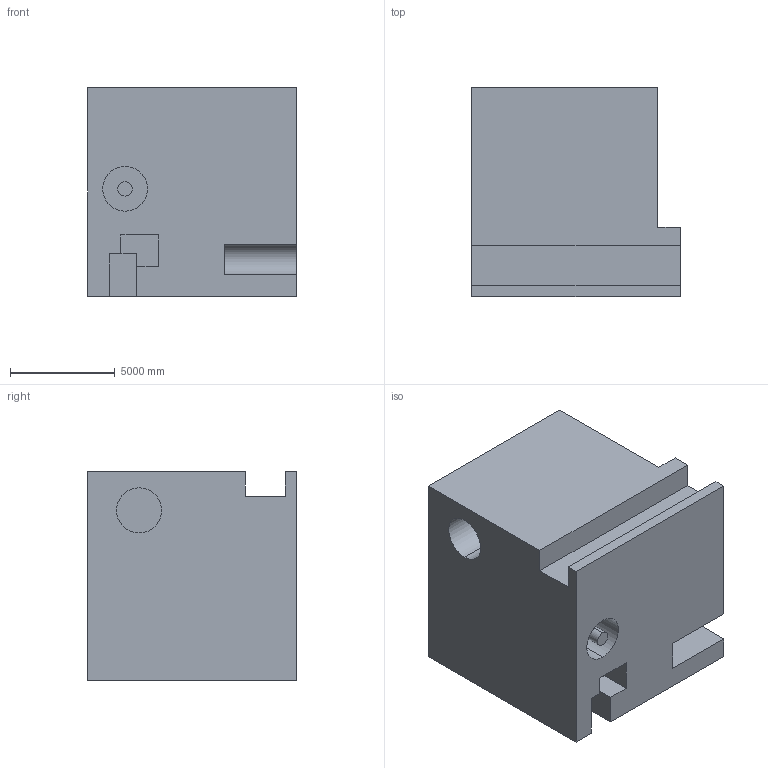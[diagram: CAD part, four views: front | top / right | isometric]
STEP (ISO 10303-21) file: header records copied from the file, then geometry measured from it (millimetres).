
FILE_DESCRIPTION (( 'STEP AP203' ), '1' );
FILE_NAME ('872.STEP', '2022-07-29T13:53:07', ( 'user' ), ( '' ), 'SwSTEP 2.0', 'SolidWorks 2021', '' );
FILE_SCHEMA (( 'CONFIG_CONTROL_DESIGN' ));
Length unit declared in the file: centimetre
Products named in the file (1): 872
Bounding box: 10000 x 10000 x 10000 mm (x, y, z)
Volume: 780256437473.4 mm3; surface area: 749602742.4 mm2
Topology: 1 solids, 1 shells, 42 faces, 111 edges, 74 vertices
Faces by surface type: plane 34, cylinder 8
Entity records: 1367 total; most frequent: CARTESIAN_POINT 231, ORIENTED_EDGE 222, DIRECTION 211, EDGE_CURVE 111, LINE 95, VECTOR 95, VERTEX_POINT 74, AXIS2_PLACEMENT_3D 58
